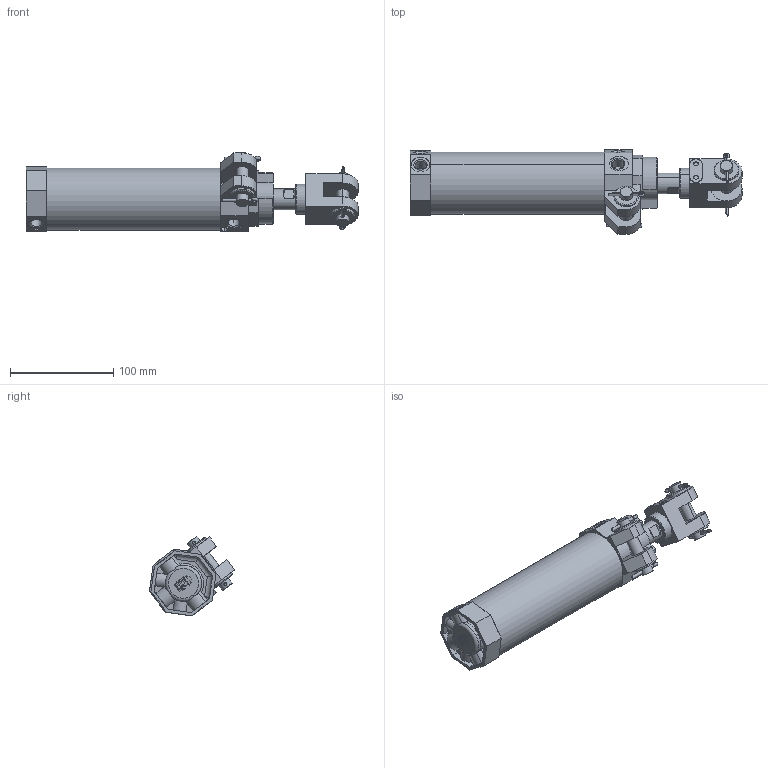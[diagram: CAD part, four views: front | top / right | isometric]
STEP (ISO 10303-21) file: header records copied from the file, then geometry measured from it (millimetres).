
FILE_DESCRIPTION(('CATIA V5 STEP Exchange'),'2;1');
FILE_NAME('D:\stp file for catalog\PRCCA\prcca 50\PRCCA 50-20-125.stp','2015-05-05T07:08:39+00:00',('none'),('none'),'Version 5-6 Release 2012','CATIA V5 STEP AP203','none');
FILE_SCHEMA(('CONFIG_CONTROL_DESIGN'));
Length unit declared in the file: millimetre
Products named in the file (3): pncca 50-20-125; Product1.1; PNCCA 50-20-50-02
Assembly tree (14 placements, depth 3):
  pncca 50-20-125
    Product1.1
      #66
      #7124
      #7293
      #11488  x2
      #12010
      #12336
      #12568
    PNCCA 50-20-50-02
      #12806
      #12010
      #11488  x2
Bounding box: 321.2 x 82.23 x 76.99 mm (x, y, z)
Volume: 344090.5 mm3; surface area: 153388.4 mm2
Topology: 12 solids, 12 shells, 555 faces, 1340 edges, 861 vertices
Faces by surface type: plane 247, cylinder 218, cone 68, torus 12, bspline 9, extrusion 1
Entity records: 15094 total; most frequent: CARTESIAN_POINT 3568, ORIENTED_EDGE 2464, DIRECTION 1937, EDGE_CURVE 1232, AXIS2_PLACEMENT_3D 841, VERTEX_POINT 789, VECTOR 698, LINE 697
